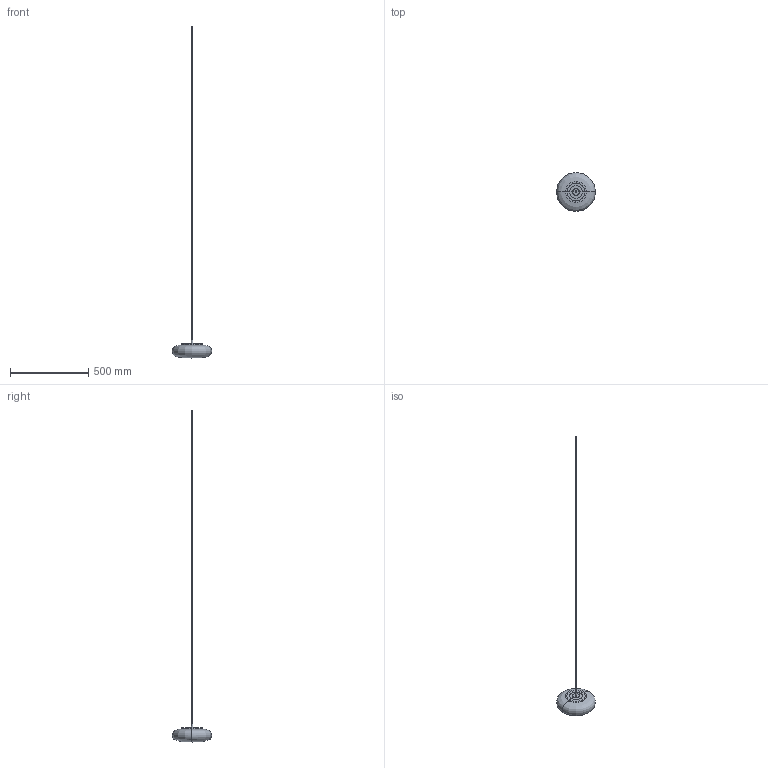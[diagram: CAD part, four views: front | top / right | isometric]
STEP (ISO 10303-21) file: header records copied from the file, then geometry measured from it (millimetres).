
FILE_DESCRIPTION(/* description */ (''),/* implementation_level */ '2;1');
FILE_NAME(/* name */ 'SNOWBALL25 P',/* time_stamp */ '2026-08-05T17:13:01+09:00',/* author */ (''),/* organization */ (''),/* preprocessor_version */ 'ST-DEVELOPER v19.2',/* originating_system */ 'Rhino 8.21',/* authorisation */ '');
FILE_SCHEMA (('CONFIG_CONTROL_DESIGN'));
Length unit declared in the file: millimetre
Products named in the file (1): Document
Bounding box: 249.98 x 250 x 2119.84 mm (x, y, z)
Volume: 3404751.4 mm3; surface area: 185940.1 mm2
Topology: 1 solids, 1 shells, 25 faces, 50 edges, 27 vertices
Faces by surface type: cylinder 12, plane 11, bspline 2
Entity records: 1155 total; most frequent: CARTESIAN_POINT 614, ORIENTED_EDGE 96, DIRECTION 79, AXIS2_PLACEMENT_3D 51, EDGE_CURVE 48, EDGE_LOOP 27, VERTEX_POINT 27, TRIMMED_CURVE 26
